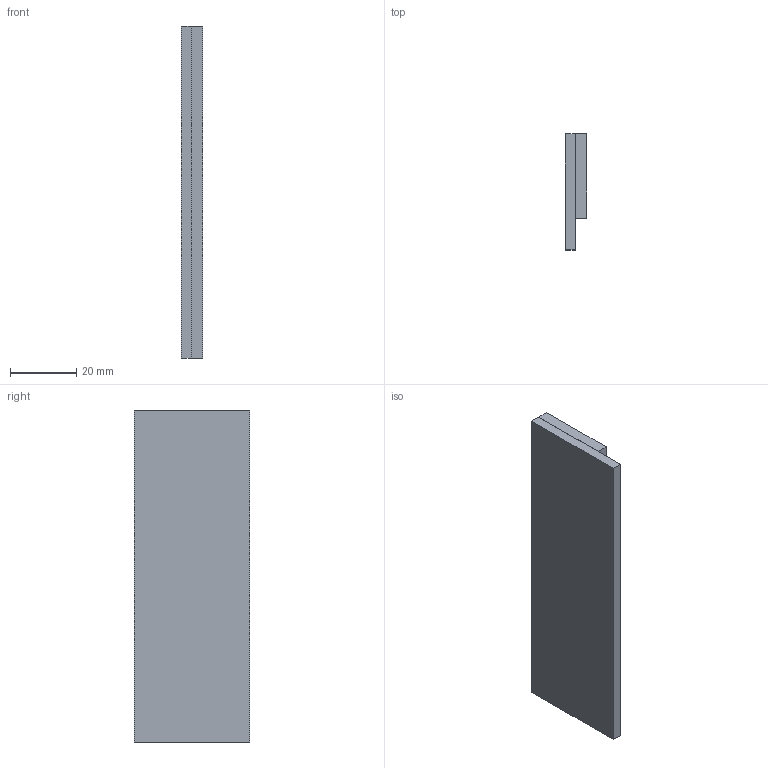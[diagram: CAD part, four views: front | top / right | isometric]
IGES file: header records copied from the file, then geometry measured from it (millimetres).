
Global section: file name: No Iges File Name specified; native system: Autodesk Inventor 2012; preprocessor: AutoDesk Inventor Iges Exporter R2012; author: anna.b; date: 20131114.151746; units: millimetre
Bounding box: 6.4 x 34.9 x 100 mm (x, y, z)
Volume: 19096.8 mm3; surface area: 13721.2 mm2
Topology: 2 solids, 2 shells, 12 faces, 24 edges, 16 vertices
Faces by surface type: plane 12
